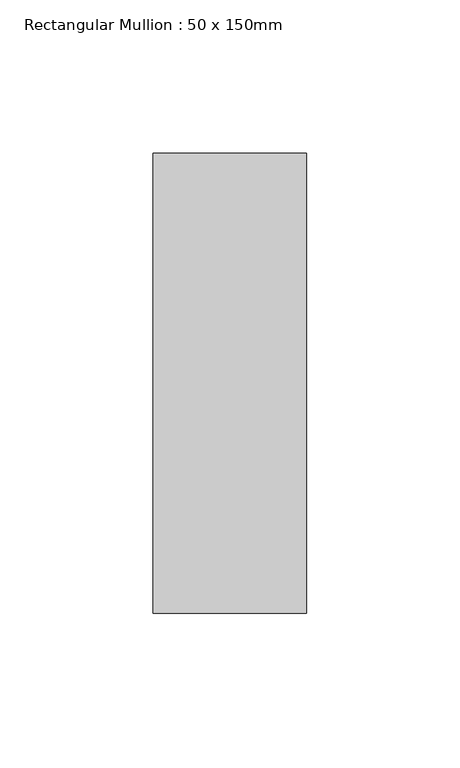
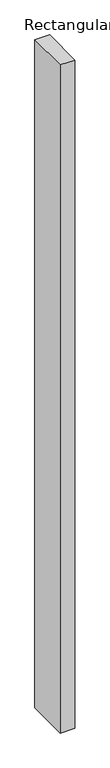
"""IFC4 building model written with IfcOpenShell, lengths in millimetres: member geometry, Rectangular Mullion : 50 x 150mm."""

from ifc_helpers import new_model, si_unit, frame, origin, place, context, project, spatial, polyline, outline, extrude, source, transform, mapped, element, save


def rectangular_mullion_50_x_150mm_fcddba0b(model_context):
    return source(origin(), model_context, "Body", "SweptSolid", [
        extrude(outline(polyline([(25.0, 75.0), (25.0, -75.0), (-25.0, -75.0), (-25.0, 75.0), (25.0, 75.0)])), frame((0.0, 0.0, -2413.4), z_axis=(0.0, 0.0, 1.0), x_axis=(1.0, 0.0, 0.0)), (0.0, 0.0, 1.0), 2413.4),
    ])


if __name__ == "__main__":
    model = new_model("IFC4")
    model_context = context("Model", 3, world=origin())
    ifc_project = project(units=[si_unit("LENGTHUNIT", "METRE", prefix="MILLI")], contexts=[model_context])
    site = spatial("IfcSite", under=ifc_project)
    building = spatial("IfcBuilding", under=site)
    placement = place(None, origin())
    rectangular_mullion_50_x_150mm_shape = rectangular_mullion_50_x_150mm_fcddba0b(model_context)
    element("IfcMember", 1, ObjectType="Rectangular Mullion : 50 x 150mm", at=placement, inside=building, context=model_context, shape_type="MappedRepresentation", body=[
        mapped(rectangular_mullion_50_x_150mm_shape, transform((0.0, 0.0, 0.0), x_axis=(1.0, 0.0, 0.0), y_axis=(0.0, 1.0, 0.0), z_axis=(0.0, 0.0, 1.0))),
    ])
    save(model, "model.ifc")
